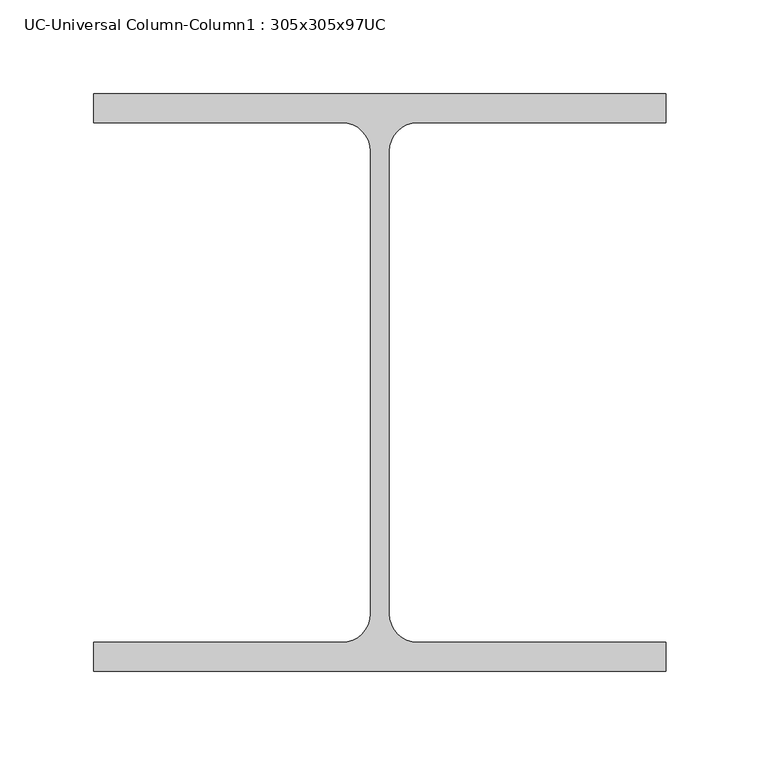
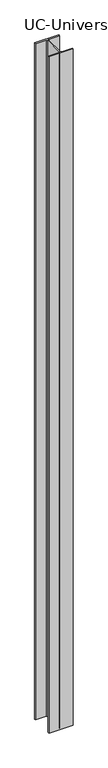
"""IFC4 building model written with IfcOpenShell, lengths in millimetres: column geometry, UC-Universal Column-Column1 : 305x305x97UC."""

from ifc_helpers import new_model, si_unit, point, frame, frame_2d, origin, place, context, project, spatial, polyline, circle_curve, trimmed, segment, composite_curve, outline, extrude, source, transform, mapped, element, save


def uc_universal_column_column1_305x305x97uc_55296ce6(model_context):
    return source(origin(), model_context, "Body", "SweptSolid", [
        extrude(outline(composite_curve([segment(polyline([(152.65, 153.95), (152.65, 138.55), (20.15, 138.55)]), True, "CONTINUOUS"), segment(trimmed(circle_curve(frame_2d((20.15, 123.35)), 15.2), [point((20.15, 138.55))], [point((4.95, 123.35))], True, "CARTESIAN"), True, "CONTINUOUS"), segment(polyline([(4.95, 123.35), (4.95, -123.35)]), True, "CONTINUOUS"), segment(trimmed(circle_curve(frame_2d((20.15, -123.35)), 15.2), [point((4.95, -123.35))], [point((20.15, -138.55))], True, "CARTESIAN"), True, "CONTINUOUS"), segment(polyline([(20.15, -138.55), (152.65, -138.55), (152.65, -153.95), (-152.65, -153.95), (-152.65, -138.55), (-20.15, -138.55)]), True, "CONTINUOUS"), segment(trimmed(circle_curve(frame_2d((-20.15, -123.35)), 15.2), [point((-20.15, -138.55))], [point((-4.95, -123.35))], True, "CARTESIAN"), True, "CONTINUOUS"), segment(polyline([(-4.95, -123.35), (-4.95, 123.35)]), True, "CONTINUOUS"), segment(trimmed(circle_curve(frame_2d((-20.15, 123.35)), 15.2), [point((-4.95, 123.35))], [point((-20.15, 138.55))], True, "CARTESIAN"), True, "CONTINUOUS"), segment(polyline([(-20.15, 138.55), (-152.65, 138.55), (-152.65, 153.95), (152.65, 153.95)]), True, "CONTINUOUS")], self_intersect=False)), frame((0.0, 0.0, -3000.0), z_axis=(0.0, 0.0, 1.0), x_axis=(1.0, 0.0, 0.0)), (0.0, 0.0, 1.0), 9000.0),
    ])


if __name__ == "__main__":
    model = new_model("IFC4")
    model_context = context("Model", 3, world=origin())
    ifc_project = project(units=[si_unit("LENGTHUNIT", "METRE", prefix="MILLI")], contexts=[model_context])
    site = spatial("IfcSite", under=ifc_project)
    building = spatial("IfcBuilding", under=site)
    placement = place(None, origin())
    uc_universal_column_column1_305x305x97uc_shape = uc_universal_column_column1_305x305x97uc_55296ce6(model_context)
    element("IfcColumn", 1, ObjectType="UC-Universal Column-Column1 : 305x305x97UC", at=placement, inside=building, context=model_context, shape_type="MappedRepresentation", body=[
        mapped(uc_universal_column_column1_305x305x97uc_shape, transform((0.0, 0.0, 0.0), x_axis=(1.0, 0.0, 0.0), y_axis=(0.0, 1.0, 0.0), z_axis=(0.0, 0.0, 1.0))),
    ])
    save(model, "model.ifc")
